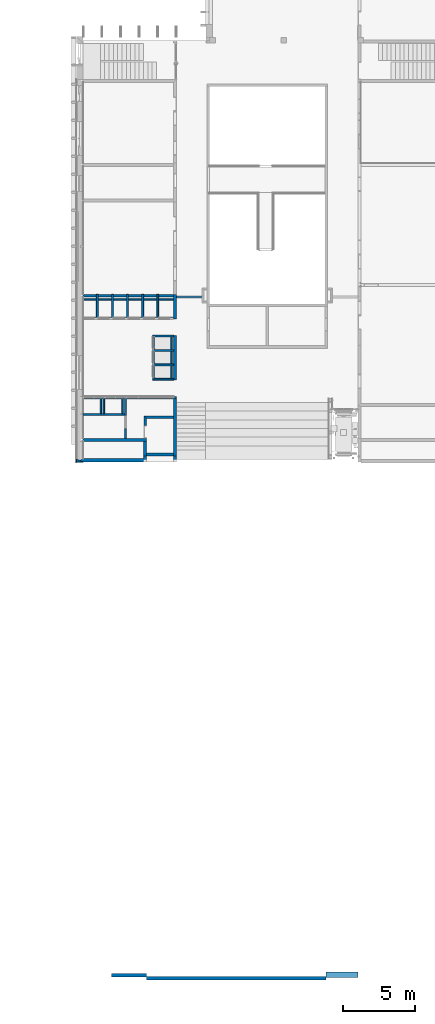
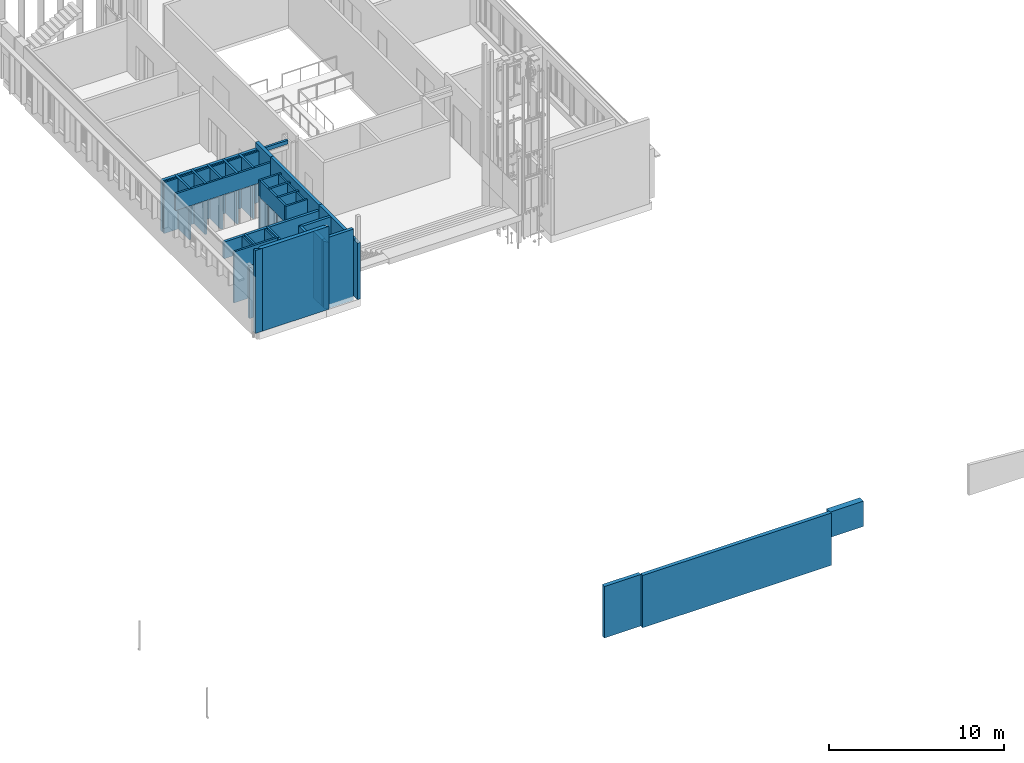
# One storey, part 11 of 89: 38 walls, 4 openings.
"""IFC2X3 building model written with IfcOpenShell, lengths in millimetres."""

from ifc_helpers import new_model, entity, si_unit, converted_unit, derived_unit, money_unit, direction, frame, origin_with_axes, origin_2d_with_axis, place, context, subcontext, project, spatial, polyline, rectangle, outline, extrude, material, layer, layer_set, layer_usage, type_object, element, save


model = new_model("IFC2X3")

# Units and contexts
model_context = context("Model", 3, precision=0.01, world=origin_with_axes(), true_north=direction((0.0, 1.0)))
body_context = subcontext(model_context, "Body", "Model", "MODEL_VIEW")
ifc_project = project(units=[si_unit("LENGTHUNIT", "METRE", prefix="MILLI"), si_unit("AREAUNIT", "SQUARE_METRE"), si_unit("VOLUMEUNIT", "CUBIC_METRE"), converted_unit("PLANEANGLEUNIT", "DEGREE", entity("IfcPlaneAngleMeasure", 0.0174532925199), si_unit("PLANEANGLEUNIT", "RADIAN"), dimensions=[0, 0, 0, 0, 0, 0, 0]), si_unit("SOLIDANGLEUNIT", "STERADIAN"), money_unit("EUR"), converted_unit("TIMEUNIT", "Year", entity("IfcTimeMeasure", 31556926.0), si_unit("TIMEUNIT", "SECOND"), dimensions=[0, 0, 1, 0, 0, 0, 0]), si_unit("MASSUNIT", "GRAM", prefix="KILO"), si_unit("THERMODYNAMICTEMPERATUREUNIT", "DEGREE_CELSIUS"), si_unit("LUMINOUSINTENSITYUNIT", "LUMEN"), si_unit("ENERGYUNIT", "JOULE", prefix="MEGA"), derived_unit("THERMALCONDUCTANCEUNIT", [(si_unit("POWERUNIT", "WATT"), 1), (si_unit("LENGTHUNIT", "METRE"), -1), (si_unit("THERMODYNAMICTEMPERATUREUNIT", "KELVIN"), -1)]), derived_unit("SPECIFICHEATCAPACITYUNIT", [(si_unit("ENERGYUNIT", "JOULE"), 1), (si_unit("MASSUNIT", "GRAM", prefix="KILO"), -1), (si_unit("THERMODYNAMICTEMPERATUREUNIT", "KELVIN"), -1)]), derived_unit("MASSDENSITYUNIT", [(si_unit("MASSUNIT", "GRAM", prefix="KILO"), 1), (si_unit("VOLUMEUNIT", "CUBIC_METRE"), -1)])], contexts=[model_context])

# Site, building, storey
site_placement = place(None, origin_with_axes())
site = spatial("IfcSite", under=ifc_project, at=site_placement, Name="Puškini 31, Narva", CompositionType="ELEMENT")
building_placement = place(site_placement, origin_with_axes())
building = spatial("IfcBuilding", under=site, at=building_placement, Name="Narva Riigigümnaasium", CompositionType="ELEMENT")
storey_placement = place(building_placement, frame((0.0, 0.0, -3300.0), z_axis=(0.0, 0.0, 1.0), x_axis=(1.0, 0.0, 0.0)))
storey = spatial("IfcBuildingStorey", under=building, at=storey_placement, Name="1.korrus -3.3", CompositionType="ELEMENT", Elevation=-3300.0)

# Wall, openings
ifc_material_1 = material(Name="Betoon element")
ifc_layer_1 = layer(ifc_material_1, 200.0, ventilated="UNKNOWN")
ifc_layer_set_1 = layer_set([ifc_layer_1], Name="G-SS-01")
ifc_layer_usage_1 = layer_usage(ifc_layer_set_1, "AXIS2", "NEGATIVE", 0.0)
wall_type_1 = type_object("IfcWallType", Name="G-SS-01 200", PredefinedType="NOTDEFINED")
wall_1_placement = place(storey_placement, frame((34899.9999996, 204660.106143, 0.0), z_axis=(0.0, 0.0, 1.0), x_axis=(0.0, -1.0, 0.0)))
wall_1 = element("IfcWallStandardCase", 1, at=wall_1_placement, inside=storey, type_object=wall_type_1, material=ifc_layer_usage_1, Name="Sisesein", context=body_context, shape_type="SweptSolid", body=[
    extrude(outline(polyline([(0.0, -200.0), (5550.10642708, -200.0), (5550.10642708, 0.0), (0.0, 0.0), (0.0, -200.0)])), origin_with_axes(), (0.0, 0.0, 1.0), 3960.0),
])
opening_1_placement = place(wall_1_placement, frame((4825.10642989, 0.0, 0.0), z_axis=(0.0, 0.0, 1.0), x_axis=(1.0, 0.0, 0.0)))
element("IfcOpeningElement", 2, at=opening_1_placement, cuts=wall_1, Name="Tühi ava", context=body_context, shape_type="SweptSolid", body=[
    extrude(rectangle(XDim=1149.99999439, YDim=2400.0, at=origin_2d_with_axis()), frame((0.0, -200.0, 1200.0), z_axis=(0.0, -1.0, 0.0), x_axis=(1.0, 0.0, 0.0)), (0.0, 0.0, -1.0), 600.0),
])
opening_2_placement = place(wall_1_placement, frame((575.106435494, 0.0, 0.0), z_axis=(0.0, 0.0, 1.0), x_axis=(1.0, 0.0, 0.0)))
element("IfcOpeningElement", 3, at=opening_2_placement, cuts=wall_1, Name="Tühi ava", context=body_context, shape_type="SweptSolid", body=[
    extrude(rectangle(XDim=1149.99999439, YDim=2400.0, at=origin_2d_with_axis()), frame((0.0, 200.0, 1200.0), z_axis=(0.0, -1.0, 0.0), x_axis=(1.0, 0.0, 0.0)), (0.0, 0.0, 1.0), 600.0),
])

# Walls
ifc_layer_usage_2 = layer_usage(ifc_layer_set_1, "AXIS2", "POSITIVE", 0.0)
wall_2_placement = place(storey_placement, frame((28400.0401775, 206159.99971, 0.0), z_axis=(0.0, 0.0, 1.0), x_axis=(1.0, 0.0, 0.0)))
element("IfcWallStandardCase", 4, at=wall_2_placement, inside=storey, type_object=wall_type_1, material=ifc_layer_usage_2, Name="Sisesein", context=body_context, shape_type="SweptSolid", body=[
    extrude(outline(polyline([(10.0, 0.0), (6284.95982214, 0.0), (6284.95982214, 200.0), (10.0, 200.0), (10.0, 0.0)])), origin_with_axes(), (0.0, 0.0, 1.0), 3565.0),
])
ifc_layer_usage_3 = layer_usage(ifc_layer_set_1, "AXIS2", "NEGATIVE", 200.0)
wall_3_placement = place(storey_placement, frame((28200.0401775, 194900.0, 0.0), z_axis=(0.0, 0.0, 1.0), x_axis=(-1.0, 0.0, 0.0)))
element("IfcWallStandardCase", 5, at=wall_3_placement, inside=storey, type_object=wall_type_1, material=ifc_layer_usage_3, Name="Sisesein", context=body_context, shape_type="SweptSolid", body=[
    extrude(outline(polyline([(210.000000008, 0.0), (250.0, 0.0), (250.0, 200.0), (-209.999999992, 200.0), (210.000000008, 0.0)])), origin_with_axes(), (0.0, 0.0, 1.0), 5800.0),
])
wall_4_placement = place(storey_placement, frame((34899.9999996, 199109.999716, 0.0), z_axis=(0.0, 0.0, 1.0), x_axis=(0.0, -1.0, 0.0)))
element("IfcWallStandardCase", 6, at=wall_4_placement, inside=storey, type_object=wall_type_1, material=ifc_layer_usage_1, Name="Sisesein", context=body_context, shape_type="SweptSolid", body=[
    extrude(outline(polyline([(0.0, -200.0), (3969.99972647, -200.0), (3969.99971583, 0.0), (0.0, 0.0), (0.0, -200.0)])), origin_with_axes(), (0.0, 0.0, 1.0), 3960.0),
])
wall_5_placement = place(storey_placement, frame((32820.0000014, 196349.999994, 0.0), z_axis=(0.0, 0.0, 1.0), x_axis=(-1.0, 0.0, 0.0)))
element("IfcWallStandardCase", 7, at=wall_5_placement, inside=storey, type_object=wall_type_1, material=ifc_layer_usage_2, Name="Sisesein", context=body_context, shape_type="SweptSolid", body=[
    extrude(outline(polyline([(0.0, 0.0), (4409.95982385, 0.0), (4409.95982385, 200.0), (0.0, 200.0), (0.0, 0.0)])), origin_with_axes(), (0.0, 0.0, 1.0), 3565.0),
])
wall_6_placement = place(storey_placement, frame((34899.9999996, 195340.0, -300.0), z_axis=(0.0, 0.0, 1.0), x_axis=(-1.0, 0.0, 0.0)))
element("IfcWallStandardCase", 8, at=wall_6_placement, inside=storey, type_object=wall_type_1, material=ifc_layer_usage_2, Name="Sisesein", context=body_context, shape_type="SweptSolid", body=[
    extrude(outline(polyline([(200.0, 0.0), (2079.99999964, 0.0), (2079.99999964, 200.0), (200.0, 200.0), (200.0, 0.0)])), origin_with_axes(), (0.0, 0.0, 1.0), 4980.0),
])
wall_7_placement = place(storey_placement, frame((32810.0, 194950.0, 0.0), z_axis=(0.0, 0.0, 1.0), x_axis=(0.0, 1.0, 0.0)))
element("IfcWallStandardCase", 9, at=wall_7_placement, inside=storey, type_object=wall_type_1, material=ifc_layer_usage_2, Name="Sisesein", context=body_context, shape_type="SweptSolid", body=[
    extrude(outline(polyline([(-250.0, 0.0), (190.000000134, 0.0), (190.000000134, 200.0), (-9.37916411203e-09, 200.0), (-250.0, 0.0)])), origin_with_axes(), (0.0, 0.0, 1.0), 4680.0),
])
wall_8_placement = place(storey_placement, frame((34899.9999996, 195140.0, 0.0), z_axis=(0.0, 0.0, 1.0), x_axis=(1.06350306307e-07, -1.0, 0.0)))
element("IfcWallStandardCase", 10, at=wall_8_placement, inside=storey, type_object=wall_type_1, material=ifc_layer_usage_1, Name="Sisesein", context=body_context, shape_type="SweptSolid", body=[
    extrude(outline(polyline([(-1.06350057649e-05, -200.0), (440.000000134, -200.0), (440.000000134, 0.0), (0.0, 0.0), (-1.06350057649e-05, -200.0)])), origin_with_axes(), (0.0, 0.0, 1.0), 3960.0),
])
ifc_material_2 = material(Name="KON-04_Betoon - Konstuktsioon")
ifc_layer_2 = layer(ifc_material_2, 250.0, ventilated="UNKNOWN")
ifc_layer_set_2 = layer_set([ifc_layer_2], Name="KON-04_Betoon - Konstuktsioon 250")
ifc_layer_usage_4 = layer_usage(ifc_layer_set_2, "AXIS2", "NEGATIVE", 250.0)
wall_type_2 = type_object("IfcWallType", Name="KON-04_Betoon - Konstuktsioon 250", PredefinedType="NOTDEFINED")
wall_9_placement = place(storey_placement, frame((32799.9999942, 159199.999992, -470.0), z_axis=(0.0, 0.0, 1.0), x_axis=(-1.0, 0.0, 0.0)))
element("IfcWallStandardCase", 11, at=wall_9_placement, inside=storey, type_object=wall_type_2, material=ifc_layer_usage_4, Name="Sisesein", context=body_context, shape_type="SweptSolid", body=[
    extrude(outline(polyline([(0.0, 0.0), (2399.99999545, 0.0), (2399.99999545, 250.0), (0.0, 250.0), (0.0, 0.0)])), origin_with_axes(), (0.0, 0.0, 1.0), 3605.0),
])
wall_10_placement = place(storey_placement, frame((45280.0, 158990.000001, -470.0), z_axis=(0.0, 0.0, 1.0), x_axis=(-1.0, 0.0, 0.0)))
element("IfcWallStandardCase", 12, at=wall_10_placement, inside=storey, type_object=wall_type_2, material=ifc_layer_usage_4, Name="Sisesein", context=body_context, shape_type="SweptSolid", body=[
    extrude(outline(polyline([(0.0, 0.0), (12480.0000058, 0.0), (12480.0000058, 250.0), (0.0, 250.0), (0.0, 0.0)])), origin_with_axes(), (0.0, 0.0, 1.0), 3660.00006934),
])
ifc_material_3 = material(Name="siseviimistlus-seinad")
ifc_layer_3 = layer(ifc_material_3, 15.0, ventilated="UNKNOWN")
ifc_material_4 = material(Name="Kipsplaat")
ifc_layer_4 = layer(ifc_material_4, 12.5, ventilated="UNKNOWN")
ifc_layer_5 = layer(ifc_material_4, 12.0, ventilated="UNKNOWN")
ifc_material_5 = material(Name="Karkass")
ifc_layer_6 = layer(ifc_material_5, 66.0, ventilated="UNKNOWN")
ifc_layer_set_3 = layer_set([ifc_layer_3, ifc_layer_4, ifc_layer_5, ifc_layer_6], Name="G-SS-06")
ifc_layer_usage_5 = layer_usage(ifc_layer_set_3, "AXIS2", "POSITIVE", 0.0)
wall_type_3 = type_object("IfcWallType", Name="G-SS-06 106", PredefinedType="NOTDEFINED")
wall_11_placement = place(storey_placement, frame((28400.0401775, 205959.99971, 0.0), z_axis=(0.0, 0.0, 1.0), x_axis=(1.0, 0.0, 0.0)))
element("IfcWallStandardCase", 13, at=wall_11_placement, inside=storey, type_object=wall_type_3, material=ifc_layer_usage_5, Name="Sisesein", context=body_context, shape_type="SweptSolid", body=[
    extrude(outline(polyline([(10.0, 0.0), (6284.95982214, 0.0), (6284.95982214, 105.5), (10.0, 105.5), (10.0, 0.0)])), origin_with_axes(), (0.0, 0.0, 1.0), 3560.0),
])
ifc_layer_usage_6 = layer_usage(ifc_layer_set_3, "AXIS2", "NEGATIVE", 15.0)
wall_12_placement = place(storey_placement, frame((34515.9999996, 200509.99971, 0.0), z_axis=(0.0, 0.0, 1.0), x_axis=(0.0, 1.0, 0.0)))
element("IfcWallStandardCase", 14, at=wall_12_placement, inside=storey, type_object=wall_type_3, material=ifc_layer_usage_6, Name="Sisesein", context=body_context, shape_type="SweptSolid", body=[
    extrude(outline(polyline([(15.0, -90.5), (2885.0, -90.5), (2885.0, 15.0), (15.0, 15.0), (15.0, -90.5)])), origin_with_axes(), (0.0, 0.0, 1.0), 3560.0),
])
for number, where, z_axis, x_axis in (
    (15, (29616.0183339, 198059.999702, 0.0), (0.0, 0.0, 1.0), (0.0, 1.0, 0.0)),
    (16, (31116.0183193, 198059.999702, 0.0), (0.0, 0.0, 1.0), (0.0, 1.0, 0.0)),
):
    element("IfcWallStandardCase", number, at=place(storey_placement, frame(where, z_axis=z_axis, x_axis=x_axis)), inside=storey, type_object=wall_type_3, material=ifc_layer_usage_6, Name="Sisesein", context=body_context, shape_type="SweptSolid", body=[
        extrude(outline(polyline([(15.0, -90.5), (1200.00001432, -90.5), (1200.00001432, 15.0), (15.0, 15.0), (15.0, -90.5)])), origin_with_axes(), (0.0, 0.0, 1.0), 3560.0),
    ])
ifc_material_6 = material(Name="SKR-02_Kipsplaat")
ifc_layer_7 = layer(ifc_material_6, 12.5, ventilated="UNKNOWN")
ifc_material_7 = material(Name="SOJ-03_Soojustus - Mineraal Pehme")
ifc_layer_8 = layer(ifc_material_7, 100.0, ventilated="UNKNOWN")
ifc_layer_set_4 = layer_set([ifc_layer_7, ifc_layer_7, ifc_layer_8, ifc_layer_7, ifc_layer_7], Name="G-SS-09")
ifc_layer_usage_7 = layer_usage(ifc_layer_set_4, "AXIS2", "NEGATIVE", 0.0)
wall_type_4 = type_object("IfcWallType", Name="G-SS-09 150", PredefinedType="NOTDEFINED")
wall_13_placement = place(storey_placement, frame((34899.9999996, 206250.0, 3295.0), z_axis=(0.0, 0.0, 1.0), x_axis=(1.0, 0.0, 0.0)))
element("IfcWallStandardCase", 17, at=wall_13_placement, inside=storey, type_object=wall_type_4, material=ifc_layer_usage_7, Name="Sisesein", context=body_context, shape_type="SweptSolid", body=[
    extrude(outline(polyline([(0.0, -150.0), (1800.00426916, -150.0), (1800.00426916, 0.0), (0.0, 0.0), (0.0, -150.0)])), origin_with_axes(), (0.0, 0.0, 1.0), 260.0),
])
ifc_layer_9 = layer(ifc_material_3, 10.0, ventilated="UNKNOWN")
ifc_layer_set_5 = layer_set([ifc_layer_1, ifc_layer_9], Name="G-SS-01-02")
ifc_layer_usage_8 = layer_usage(ifc_layer_set_5, "AXIS2", "NEGATIVE", 200.0)
wall_type_5 = type_object("IfcWallType", Name="G-SS-01-02 210", PredefinedType="NOTDEFINED")
wall_14_placement = place(storey_placement, frame((32810.0, 195140.0, 0.0), z_axis=(0.0, 0.0, 1.0), x_axis=(0.0, 1.0, 0.0)))
element("IfcWallStandardCase", 18, at=wall_14_placement, inside=storey, type_object=wall_type_5, material=ifc_layer_usage_8, Name="Sisesein", context=body_context, shape_type="SweptSolid", body=[
    extrude(outline(polyline([(0.0, -10.0), (1009.99999424, -10.0), (1009.99999424, 200.0), (0.0, 200.0), (0.0, -10.0)])), origin_with_axes(), (0.0, 0.0, 1.0), 4680.0),
])
ifc_material_8 = material(Name="kergbetoonplokk")
ifc_layer_10 = layer(ifc_material_8, 100.0, ventilated="UNKNOWN")
ifc_layer_set_6 = layer_set([ifc_layer_3, ifc_layer_10, ifc_layer_3], Name="G-SS-05-03")
ifc_layer_usage_9 = layer_usage(ifc_layer_set_6, "AXIS2", "NEGATIVE", 15.0)
wall_type_6 = type_object("IfcWallType", Name="G-SS-05-03 130", PredefinedType="NOTDEFINED")
wall_15_placement = place(storey_placement, frame((32599.9999993, 206359.99971, 0.0), z_axis=(0.0, 0.0, 1.0), x_axis=(0.0, -1.0, 0.0)))
element("IfcWallStandardCase", 19, at=wall_15_placement, inside=storey, type_object=wall_type_6, material=ifc_layer_usage_9, Name="Sisesein", context=body_context, shape_type="SweptSolid", body=[
    extrude(outline(polyline([(0.0, -115.0), (1665.80639424, -115.0), (1665.80639424, 15.0), (0.0, 15.0), (0.0, -115.0)])), origin_with_axes(), (0.0, 0.0, 1.0), 3565.0),
])
wall_16_placement = place(storey_placement, frame((33649.9999992, 206359.99971, 0.0), z_axis=(0.0, 0.0, 1.0), x_axis=(0.0, -1.0, 0.0)))
element("IfcWallStandardCase", 20, at=wall_16_placement, inside=storey, type_object=wall_type_6, material=ifc_layer_usage_9, Name="Sisesein", context=body_context, shape_type="SweptSolid", body=[
    extrude(outline(polyline([(0.0, -115.0), (1665.80639462, -115.0), (1665.80639462, 15.0), (0.0, 15.0), (0.0, -115.0)])), origin_with_axes(), (0.0, 0.0, 1.0), 3565.0),
])
wall_17_placement = place(storey_placement, frame((29449.9999989, 206359.999708, 0.0), z_axis=(0.0, 0.0, 1.0), x_axis=(0.0, -1.0, 0.0)))
element("IfcWallStandardCase", 21, at=wall_17_placement, inside=storey, type_object=wall_type_6, material=ifc_layer_usage_9, Name="Sisesein", context=body_context, shape_type="SweptSolid", body=[
    extrude(outline(polyline([(0.0, -115.0), (1665.80639311, -115.0), (1665.80639311, 15.0), (0.0, 15.0), (0.0, -115.0)])), origin_with_axes(), (0.0, 0.0, 1.0), 3565.0),
])
wall_18_placement = place(storey_placement, frame((31549.9999993, 206359.999709, 0.0), z_axis=(0.0, 0.0, 1.0), x_axis=(0.0, -1.0, 0.0)))
element("IfcWallStandardCase", 22, at=wall_18_placement, inside=storey, type_object=wall_type_6, material=ifc_layer_usage_9, Name="Sisesein", context=body_context, shape_type="SweptSolid", body=[
    extrude(outline(polyline([(0.0, -115.0), (1665.80639387, -115.0), (1665.80639387, 15.0), (0.0, 15.0), (0.0, -115.0)])), origin_with_axes(), (0.0, 0.0, 1.0), 3565.0),
])
wall_19_placement = place(storey_placement, frame((30499.9999988, 206359.999709, 0.0), z_axis=(0.0, 0.0, 1.0), x_axis=(0.0, -1.0, 0.0)))
element("IfcWallStandardCase", 23, at=wall_19_placement, inside=storey, type_object=wall_type_6, material=ifc_layer_usage_9, Name="Sisesein", context=body_context, shape_type="SweptSolid", body=[
    extrude(outline(polyline([(0.0, -115.0), (1665.80639349, -115.0), (1665.80639349, 15.0), (0.0, 15.0), (0.0, -115.0)])), origin_with_axes(), (0.0, 0.0, 1.0), 3565.0),
])
for number, where, z_axis, x_axis in (
    (24, (34899.9999996, 202409.99971, 0.0), (0.0, 0.0, 1.0), (-1.0, 0.0, 0.0)),
    (25, (34899.9999996, 201409.99971, 0.0), (0.0, 0.0, 1.0), (-1.0, 0.0, 0.0)),
):
    element("IfcWallStandardCase", number, at=place(storey_placement, frame(where, z_axis=z_axis, x_axis=x_axis)), inside=storey, type_object=wall_type_6, material=ifc_layer_usage_9, Name="Sisesein", context=body_context, shape_type="SweptSolid", body=[
        extrude(outline(polyline([(200.0, -115.0), (1605.91192054, -115.0), (1605.91192054, 15.0), (200.0, 15.0), (200.0, -115.0)])), origin_with_axes(), (0.0, 0.0, 1.0), 3565.0),
    ])
ifc_layer_set_7 = layer_set([ifc_layer_3, ifc_layer_10, ifc_layer_9], Name="G-SS-05-04")
ifc_layer_usage_10 = layer_usage(ifc_layer_set_7, "AXIS2", "NEGATIVE", 0.0)
wall_type_7 = type_object("IfcWallType", Name="G-SS-05-04 125", PredefinedType="NOTDEFINED")
wall_20_placement = place(storey_placement, frame((28400.0401775, 204774.999719, 2400.0), z_axis=(0.0, 0.0, 1.0), x_axis=(1.0, 0.0, 0.0)))
element("IfcWallStandardCase", 26, at=wall_20_placement, inside=storey, type_object=wall_type_7, material=ifc_layer_usage_10, Name="Sisesein", context=body_context, shape_type="SweptSolid", body=[
    extrude(outline(polyline([(10.0, -125.0), (6284.95982214, -125.0), (6284.95982214, 0.0), (10.0, 0.0), (10.0, -125.0)])), origin_with_axes(), (0.0, 0.0, 1.0), 1165.0),
])
ifc_layer_usage_11 = layer_usage(ifc_layer_set_7, "AXIS2", "NEGATIVE", 15.0)
wall_21_placement = place(storey_placement, frame((28400.0401775, 198059.999702, 0.0), z_axis=(0.0, 0.0, 1.0), x_axis=(1.0, 0.0, 0.0)))
element("IfcWallStandardCase", 27, at=wall_21_placement, inside=storey, type_object=wall_type_7, material=ifc_layer_usage_11, Name="Sisesein", context=body_context, shape_type="SweptSolid", body=[
    extrude(outline(polyline([(10.0, -110.0), (2889.97814177, -110.0), (2889.97814177, 15.0), (10.0, 15.0), (10.0, -110.0)])), origin_with_axes(), (0.0, 0.0, 1.0), 3565.0),
])
wall_22_placement = place(storey_placement, frame((33369.9999781, 203409.99971, 2400.0), z_axis=(0.0, 0.0, 1.0), x_axis=(0.0, -1.0, 0.0)))
element("IfcWallStandardCase", 28, at=wall_22_placement, inside=storey, type_object=wall_type_7, material=ifc_layer_usage_11, Name="Sisesein", context=body_context, shape_type="SweptSolid", body=[
    extrude(outline(polyline([(15.0, -110.0), (2885.0, -110.0), (2885.0, 15.0), (15.0, 15.0), (15.0, -110.0)])), origin_with_axes(), (0.0, 0.0, 1.0), 1165.0),
])
ifc_layer_usage_12 = layer_usage(ifc_layer_set_7, "AXIS2", "POSITIVE", -15.0)
wall_23_placement = place(storey_placement, frame((34899.9999996, 200509.99971, 0.0), z_axis=(0.0, 0.0, 1.0), x_axis=(-1.0, 0.0, 0.0)))
element("IfcWallStandardCase", 29, at=wall_23_placement, inside=storey, type_object=wall_type_7, material=ifc_layer_usage_12, Name="Sisesein", context=body_context, shape_type="SweptSolid", body=[
    extrude(outline(polyline([(200.0, -15.0), (1650.00002153, -15.0), (1650.00002153, 110.0), (200.0, 110.0), (200.0, -15.0)])), origin_with_axes(), (0.0, 0.0, 1.0), 3565.0),
])
wall_24_placement = place(storey_placement, frame((34899.9999996, 203409.99971, 0.0), z_axis=(0.0, 0.0, 1.0), x_axis=(-1.0, 0.0, 0.0)))
element("IfcWallStandardCase", 30, at=wall_24_placement, inside=storey, type_object=wall_type_7, material=ifc_layer_usage_11, Name="Sisesein", context=body_context, shape_type="SweptSolid", body=[
    extrude(outline(polyline([(200.0, -110.0), (1640.00002153, -110.0), (1640.00002153, 15.0), (200.0, 15.0), (200.0, -110.0)])), origin_with_axes(), (0.0, 0.0, 1.0), 3565.0),
])
ifc_layer_11 = layer(ifc_material_1, 250.0, ventilated="UNKNOWN")
ifc_layer_set_8 = layer_set([ifc_layer_11], Name="G-SS-03")
ifc_layer_usage_13 = layer_usage(ifc_layer_set_8, "AXIS2", "NEGATIVE", 250.0)
wall_type_8 = type_object("IfcWallType", Name="G-SS-03 250", PredefinedType="NOTDEFINED")
wall_25_placement = place(storey_placement, frame((32810.0, 194950.0, 0.0), z_axis=(0.0, 0.0, 1.0), x_axis=(-1.0, 0.0, 0.0)))
element("IfcWallStandardCase", 31, at=wall_25_placement, inside=storey, type_object=wall_type_8, material=ifc_layer_usage_13, Name="Sisesein", context=body_context, shape_type="SweptSolid", body=[
    extrude(outline(polyline([(200.0, 0.0), (4399.95982249, 0.0), (4867.9598225, 250.0), (1.17381659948e-08, 250.0), (200.0, 0.0)])), origin_with_axes(), (0.0, 0.0, 1.0), 5800.0),
])
ifc_layer_12 = layer(ifc_material_8, 150.0, ventilated="UNKNOWN")
ifc_layer_set_9 = layer_set([ifc_layer_3, ifc_layer_12, ifc_layer_9], Name="G-SS-04-05")
ifc_layer_usage_14 = layer_usage(ifc_layer_set_9, "AXIS2", "POSITIVE", -165.0)
wall_type_9 = type_object("IfcWallType", Name="G-SS-04-05 175", PredefinedType="NOTDEFINED")
wall_26_placement = place(storey_placement, frame((28400.0401775, 199259.999716, 2400.0), z_axis=(0.0, 0.0, 1.0), x_axis=(1.0, 0.0, 0.0)))
element("IfcWallStandardCase", 32, at=wall_26_placement, inside=storey, type_object=wall_type_9, material=ifc_layer_usage_14, Name="Sisesein", context=body_context, shape_type="SweptSolid", body=[
    extrude(outline(polyline([(10.0, -165.0), (3009.97814177, -165.0), (3009.97814177, 10.0), (10.0, 10.0), (10.0, -165.0)])), origin_with_axes(), (0.0, 0.0, 1.0), 1165.0),
])
ifc_layer_set_10 = layer_set([ifc_layer_3, ifc_layer_10], Name="G-SS-05-02")
ifc_layer_usage_15 = layer_usage(ifc_layer_set_10, "AXIS2", "POSITIVE", -15.0)
wall_type_10 = type_object("IfcWallType", Name="G-SS-05-02 115", PredefinedType="NOTDEFINED")
wall_27_placement = place(storey_placement, frame((29900.0183339, 198059.999702, 0.0), z_axis=(0.0, 0.0, 1.0), x_axis=(0.0, 1.0, 0.0)))
element("IfcWallStandardCase", 33, at=wall_27_placement, inside=storey, type_object=wall_type_10, material=ifc_layer_usage_15, Name="Sisesein", context=body_context, shape_type="SweptSolid", body=[
    extrude(outline(polyline([(15.0, -15.0), (1200.00001432, -15.0), (1200.00001432, 100.0), (15.0, 100.0), (15.0, -15.0)])), origin_with_axes(), (0.0, 0.0, 1.0), 3565.0),
])

# Wall, opening
ifc_layer_set_11 = layer_set([ifc_layer_9, ifc_layer_10, ifc_layer_9], Name="G-SS-05")
ifc_layer_usage_16 = layer_usage(ifc_layer_set_11, "AXIS2", "NEGATIVE", 10.0)
wall_type_11 = type_object("IfcWallType", Name="G-SS-05 120", PredefinedType="NOTDEFINED")
wall_28_placement = place(storey_placement, frame((31300.0183193, 196349.999994, 0.0), z_axis=(0.0, 0.0, 1.0), x_axis=(0.0, 1.0, 0.0)))
wall_28 = element("IfcWallStandardCase", 34, at=wall_28_placement, inside=storey, type_object=wall_type_11, material=ifc_layer_usage_16, Name="Sisesein", context=body_context, shape_type="SweptSolid", body=[
    extrude(outline(polyline([(0.0, -110.0), (1724.99970727, -110.0), (1724.99970727, 10.0), (0.0, 10.0), (0.0, -110.0)])), origin_with_axes(), (0.0, 0.0, 1.0), 3565.0),
])
opening_3_placement = place(wall_28_placement, frame((1150.00000576, 0.0, 0.0), z_axis=(0.0, 0.0, 1.0), x_axis=(1.0, 0.0, 0.0)))
element("IfcOpeningElement", 35, at=opening_3_placement, cuts=wall_28, Name="G-SU-018", context=body_context, shape_type="SweptSolid", body=[
    extrude(rectangle(XDim=900.0, YDim=2100.0, at=origin_2d_with_axis()), frame((0.0, 120.0, 1050.0), z_axis=(0.0, -1.0, 0.0), x_axis=(-1.0, 0.0, 0.0)), (0.0, 0.0, 1.0), 360.0),
])

ifc_layer_set_12 = layer_set([ifc_layer_9, ifc_layer_12, ifc_layer_9], Name="G-SS-04")
ifc_layer_usage_17 = layer_usage(ifc_layer_set_12, "AXIS2", "POSITIVE", -10.0)
wall_type_12 = type_object("IfcWallType", Name="G-SS-04 170", PredefinedType="NOTDEFINED")
wall_29_placement = place(storey_placement, frame((32810.0000014, 196349.999994, 0.0), z_axis=(0.0, 0.0, 1.0), x_axis=(0.0, 1.0, 0.0)))
wall_29 = element("IfcWallStandardCase", 36, at=wall_29_placement, inside=storey, type_object=wall_type_12, material=ifc_layer_usage_17, Name="Sisesein", context=body_context, shape_type="SweptSolid", body=[
    extrude(outline(polyline([(0.0, -10.0), (1389.75870118, -10.0), (1559.75870118, 160.0), (0.0, 160.0), (0.0, -10.0)])), origin_with_axes(), (0.0, 0.0, 1.0), 3960.0),
])
opening_4_placement = place(wall_29_placement, frame((460.000005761, 0.0, 0.0), z_axis=(0.0, 0.0, 1.0), x_axis=(1.0, 0.0, 0.0)))
element("IfcOpeningElement", 37, at=opening_4_placement, cuts=wall_29, Name="G-SU-019", context=body_context, shape_type="SweptSolid", body=[
    extrude(rectangle(XDim=900.0, YDim=2100.0, at=origin_2d_with_axis()), frame((0.0, -170.0, 1050.0), z_axis=(0.0, -1.0, 0.0), x_axis=(-1.0, 0.0, 0.0)), (0.0, 0.0, -1.0), 510.0),
])

# Walls
ifc_layer_usage_18 = layer_usage(ifc_layer_set_12, "AXIS2", "POSITIVE", -160.0)
wall_30_placement = place(storey_placement, frame((34899.9999996, 197749.758695, 0.0), z_axis=(0.0, 0.0, 1.0), x_axis=(-1.0, 0.0, 0.0)))
element("IfcWallStandardCase", 38, at=wall_30_placement, inside=storey, type_object=wall_type_12, material=ifc_layer_usage_18, Name="Sisesein", context=body_context, shape_type="SweptSolid", body=[
    extrude(outline(polyline([(200.0, -160.0), (2249.99999829, -160.0), (2079.99999829, 9.99999999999), (200.0, 9.99999999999), (200.0, -160.0)])), origin_with_axes(), (0.0, 0.0, 1.0), 3960.0),
])
ifc_layer_usage_19 = layer_usage(ifc_layer_set_12, "AXIS2", "NEGATIVE", 10.0)
wall_31_placement = place(storey_placement, frame((31410.0183193, 199259.999716, 2400.0), z_axis=(0.0, 0.0, 1.0), x_axis=(1.0, 0.0, 0.0)))
element("IfcWallStandardCase", 39, at=wall_31_placement, inside=storey, type_object=wall_type_12, material=ifc_layer_usage_19, Name="Sisesein", context=body_context, shape_type="SweptSolid", body=[
    extrude(outline(polyline([(0.0, -160.0), (3289.98168037, -160.0), (3289.98168037, 9.99999999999), (0.0, 9.99999999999), (0.0, -160.0)])), origin_with_axes(), (0.0, 0.0, 1.0), 1165.0),
])
ifc_layer_set_13 = layer_set([ifc_layer_1, ifc_layer_3], Name="G-SS-01-03")
ifc_layer_usage_20 = layer_usage(ifc_layer_set_13, "AXIS2", "NEGATIVE", 0.0)
wall_type_13 = type_object("IfcWallType", Name="G-SS-01-03 215", PredefinedType="NOTDEFINED")
wall_32_placement = place(storey_placement, frame((34899.9999996, 206359.99971, 0.0), z_axis=(0.0, 0.0, 1.0), x_axis=(0.0, -1.0, 0.0)))
element("IfcWallStandardCase", 40, at=wall_32_placement, inside=storey, type_object=wall_type_13, material=ifc_layer_usage_20, Name="Sisesein", context=body_context, shape_type="SweptSolid", body=[
    extrude(outline(polyline([(0.0, -215.0), (1699.89356738, -215.0), (1699.89356738, 0.0), (0.0, 0.0), (0.0, -215.0)])), origin_with_axes(), (0.0, 0.0, 1.0), 3960.0),
])
ifc_layer_13 = layer(ifc_material_2, 400.0, ventilated="UNKNOWN")
ifc_layer_set_14 = layer_set([ifc_layer_13], Name="KON-04_Betoon - Konstuktsioon 400")
ifc_layer_usage_21 = layer_usage(ifc_layer_set_14, "AXIS2", "NEGATIVE", 400.0)
wall_type_14 = type_object("IfcWallType", Name="KON-04_Betoon - Konstuktsioon 400", PredefinedType="NOTDEFINED")
wall_33_placement = place(storey_placement, frame((47499.9999928, 159300.0, 1380.0), z_axis=(0.0, 0.0, 1.0), x_axis=(-1.0, 0.0, 0.0)))
element("IfcWallStandardCase", 41, at=wall_33_placement, inside=storey, type_object=wall_type_14, material=ifc_layer_usage_21, Name="Sisesein", context=body_context, shape_type="SweptSolid", body=[
    extrude(outline(polyline([(0.0, 0.0), (2219.9999928, 0.0), (2219.9999928, 400.0), (0.0, 400.0), (0.0, 0.0)])), origin_with_axes(), (0.0, 0.0, 1.0), 1770.00001761),
])
ifc_layer_set_15 = layer_set([ifc_layer_9, ifc_layer_10], Name="G-SS-05-01")
ifc_layer_usage_22 = layer_usage(ifc_layer_set_15, "AXIS2", "POSITIVE", -10.0)
wall_type_15 = type_object("IfcWallType", Name="G-SS-05-01 110", PredefinedType="NOTDEFINED")
wall_34_placement = place(storey_placement, frame((31400.0183193, 197949.999702, 0.0), z_axis=(0.0, 0.0, 1.0), x_axis=(0.0, 1.0, 0.0)))
element("IfcWallStandardCase", 42, at=wall_34_placement, inside=storey, type_object=wall_type_15, material=ifc_layer_usage_22, Name="Sisesein", context=body_context, shape_type="SweptSolid", body=[
    extrude(outline(polyline([(0.0, -10.0), (1310.00001432, -10.0), (1310.00001432, 100.0), (0.0, 100.0), (0.0, -10.0)])), origin_with_axes(), (0.0, 0.0, 1.0), 3565.0),
])

save(model, "model.ifc")
